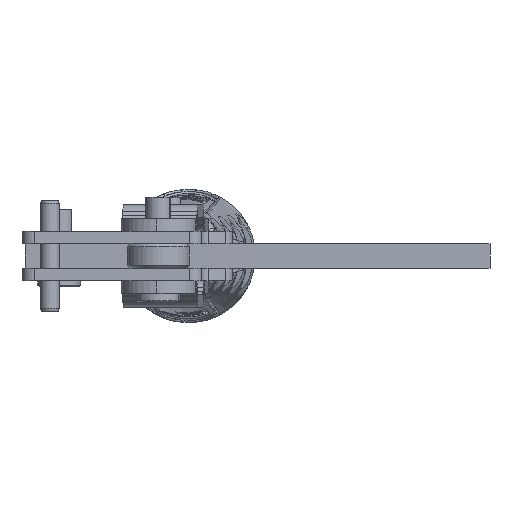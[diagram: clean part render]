
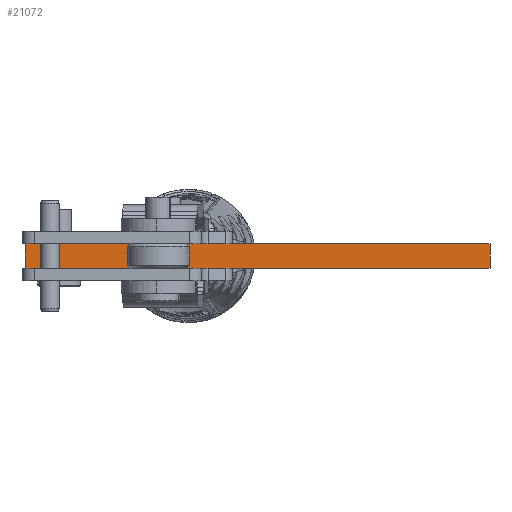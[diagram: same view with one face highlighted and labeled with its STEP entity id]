
A CAD part, front view. The second image highlights one B-rep face of the part: STEP entity #21072.
In plain terms, the highlighted planar face has unit normal (0, -1, 0).
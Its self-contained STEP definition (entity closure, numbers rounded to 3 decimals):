
#116 = EDGE_CURVE ( 'NONE', #24147, #13473, #14233, .T. ) ;
#679 = LINE ( 'NONE', #5755, #4270 ) ;
#1517 = EDGE_CURVE ( 'NONE', #6559, #13473, #679, .T. ) ;
#1562 = CARTESIAN_POINT ( 'NONE',  ( -5.5, -5.5, 0. ) ) ;
#2343 = CARTESIAN_POINT ( 'NONE',  ( -5.5, -5.5, 4. ) ) ;
#3497 = PLANE ( 'NONE',  #18124 ) ;
#3746 = VECTOR ( 'NONE', #13429, 1000. ) ;
#3823 = CARTESIAN_POINT ( 'NONE',  ( -5.5, -5.5, 4. ) ) ;
#3825 = VERTEX_POINT ( 'NONE', #3823 ) ;
#4270 = VECTOR ( 'NONE', #24620, 1000. ) ;
#4836 = EDGE_CURVE ( 'NONE', #3825, #24147, #19697, .T. ) ;
#4896 = VECTOR ( 'NONE', #7582, 1000. ) ;
#5591 = FACE_OUTER_BOUND ( 'NONE', #15601, .T. ) ;
#5732 = VECTOR ( 'NONE', #23979, 1000. ) ;
#5755 = CARTESIAN_POINT ( 'NONE',  ( 69.5, -5.5, 4. ) ) ;
#6559 = VERTEX_POINT ( 'NONE', #21952 ) ;
#7485 = CARTESIAN_POINT ( 'NONE',  ( 69.5, -5.5, 0. ) ) ;
#7582 = DIRECTION ( 'NONE',  ( 1., 0., 0. ) ) ;
#9129 = LINE ( 'NONE', #17448, #3746 ) ;
#11069 = EDGE_CURVE ( 'NONE', #3825, #6559, #9129, .T. ) ;
#13429 = DIRECTION ( 'NONE',  ( 1., 0., 0. ) ) ;
#13473 = VERTEX_POINT ( 'NONE', #7485 ) ;
#14233 = LINE ( 'NONE', #22699, #4896 ) ;
#15601 = EDGE_LOOP ( 'NONE', ( #18056, #25808, #15627, #26284 ) ) ;
#15627 = ORIENTED_EDGE ( 'NONE', *, *, #11069, .F. ) ;
#17448 = CARTESIAN_POINT ( 'NONE',  ( 69.5, -5.5, 4. ) ) ;
#18056 = ORIENTED_EDGE ( 'NONE', *, *, #116, .T. ) ;
#18124 = AXIS2_PLACEMENT_3D ( 'NONE', #18344, #26817, #26945 ) ;
#18344 = CARTESIAN_POINT ( 'NONE',  ( 69.5, -5.5, 4. ) ) ;
#19697 = LINE ( 'NONE', #2343, #5732 ) ;
#21072 = ADVANCED_FACE ( 'NONE', ( #5591 ), #3497, .F. ) ;
#21952 = CARTESIAN_POINT ( 'NONE',  ( 69.5, -5.5, 4. ) ) ;
#22699 = CARTESIAN_POINT ( 'NONE',  ( 69.5, -5.5, 0. ) ) ;
#23979 = DIRECTION ( 'NONE',  ( 0., 0., -1. ) ) ;
#24147 = VERTEX_POINT ( 'NONE', #1562 ) ;
#24620 = DIRECTION ( 'NONE',  ( 0., 0., -1. ) ) ;
#25808 = ORIENTED_EDGE ( 'NONE', *, *, #1517, .F. ) ;
#26284 = ORIENTED_EDGE ( 'NONE', *, *, #4836, .T. ) ;
#26817 = DIRECTION ( 'NONE',  ( 0., 1., 0. ) ) ;
#26945 = DIRECTION ( 'NONE',  ( 1., 0., 0. ) ) ;
